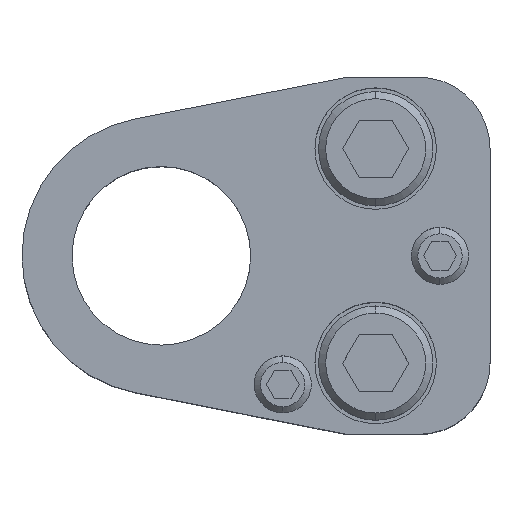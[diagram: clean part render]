
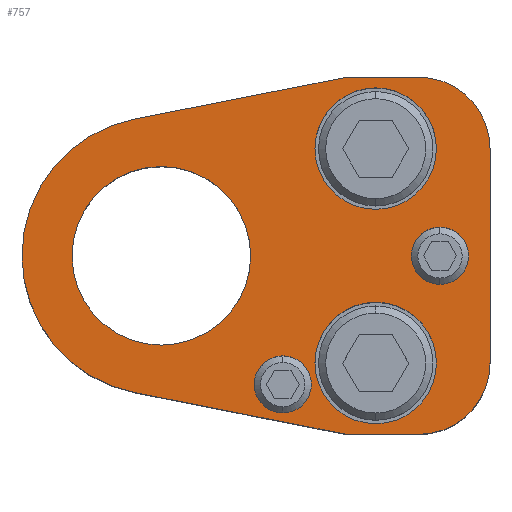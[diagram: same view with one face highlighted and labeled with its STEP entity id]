
A CAD part, top view. The second image highlights one B-rep face of the part: STEP entity #757.
In plain terms, the highlighted planar face has unit normal (0, 0, 1).
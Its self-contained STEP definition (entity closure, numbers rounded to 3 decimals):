
#428=LINE('',#3648,#598);
#433=LINE('',#3663,#603);
#437=LINE('',#3675,#607);
#442=LINE('',#3684,#612);
#447=LINE('',#3698,#617);
#598=VECTOR('',#2943,1.);
#603=VECTOR('',#2956,1.);
#607=VECTOR('',#2968,1.);
#612=VECTOR('',#2975,1.);
#617=VECTOR('',#2988,1.);
#757=ADVANCED_FACE('',(#863,#864,#865,#866,#867,#868),#834,.T.);
#834=PLANE('',#2455);
#863=FACE_BOUND('',#1003,.T.);
#864=FACE_BOUND('',#1004,.T.);
#865=FACE_BOUND('',#1005,.T.);
#866=FACE_BOUND('',#1006,.T.);
#867=FACE_BOUND('',#1007,.T.);
#868=FACE_BOUND('',#1008,.T.);
#1003=EDGE_LOOP('',(#1518,#1519,#1520,#1521,#1522,#1523,#1524,#1525));
#1004=EDGE_LOOP('',(#1526,#1527));
#1005=EDGE_LOOP('',(#1528,#1529));
#1006=EDGE_LOOP('',(#1530,#1531));
#1007=EDGE_LOOP('',(#1532,#1533));
#1008=EDGE_LOOP('',(#1534,#1535));
#1518=ORIENTED_EDGE('',*,*,#2038,.T.);
#1519=ORIENTED_EDGE('',*,*,#2020,.T.);
#1520=ORIENTED_EDGE('',*,*,#2024,.T.);
#1521=ORIENTED_EDGE('',*,*,#2027,.T.);
#1522=ORIENTED_EDGE('',*,*,#2030,.T.);
#1523=ORIENTED_EDGE('',*,*,#2033,.T.);
#1524=ORIENTED_EDGE('',*,*,#2045,.T.);
#1525=ORIENTED_EDGE('',*,*,#2041,.T.);
#1526=ORIENTED_EDGE('',*,*,#2080,.F.);
#1527=ORIENTED_EDGE('',*,*,#2081,.F.);
#1528=ORIENTED_EDGE('',*,*,#2082,.F.);
#1529=ORIENTED_EDGE('',*,*,#2083,.F.);
#1530=ORIENTED_EDGE('',*,*,#2070,.F.);
#1531=ORIENTED_EDGE('',*,*,#2066,.F.);
#1532=ORIENTED_EDGE('',*,*,#2064,.F.);
#1533=ORIENTED_EDGE('',*,*,#2060,.F.);
#1534=ORIENTED_EDGE('',*,*,#2084,.T.);
#1535=ORIENTED_EDGE('',*,*,#2085,.T.);
#1757=VERTEX_POINT('',#3647);
#1758=VERTEX_POINT('',#3649);
#1761=VERTEX_POINT('',#3656);
#1763=VERTEX_POINT('',#3662);
#1765=VERTEX_POINT('',#3668);
#1767=VERTEX_POINT('',#3674);
#1771=VERTEX_POINT('',#3685);
#1773=VERTEX_POINT('',#3691);
#1787=VERTEX_POINT('',#3733);
#1788=VERTEX_POINT('',#3734);
#1791=VERTEX_POINT('',#3745);
#1792=VERTEX_POINT('',#3746);
#1799=VERTEX_POINT('',#3773);
#1800=VERTEX_POINT('',#3774);
#1801=VERTEX_POINT('',#3777);
#1802=VERTEX_POINT('',#3778);
#1803=VERTEX_POINT('',#3781);
#1804=VERTEX_POINT('',#3782);
#2020=EDGE_CURVE('',#1758,#1757,#428,.T.);
#2024=EDGE_CURVE('',#1757,#1761,#2191,.T.);
#2027=EDGE_CURVE('',#1761,#1763,#433,.T.);
#2030=EDGE_CURVE('',#1763,#1765,#2193,.T.);
#2033=EDGE_CURVE('',#1765,#1767,#437,.T.);
#2038=EDGE_CURVE('',#1771,#1758,#442,.T.);
#2041=EDGE_CURVE('',#1773,#1771,#2196,.T.);
#2045=EDGE_CURVE('',#1767,#1773,#447,.T.);
#2060=EDGE_CURVE('',#1787,#1788,#2205,.T.);
#2064=EDGE_CURVE('',#1788,#1787,#2207,.T.);
#2066=EDGE_CURVE('',#1791,#1792,#2209,.T.);
#2070=EDGE_CURVE('',#1792,#1791,#2211,.T.);
#2080=EDGE_CURVE('',#1799,#1800,#2217,.T.);
#2081=EDGE_CURVE('',#1800,#1799,#2218,.T.);
#2082=EDGE_CURVE('',#1801,#1802,#2219,.T.);
#2083=EDGE_CURVE('',#1802,#1801,#2220,.T.);
#2084=EDGE_CURVE('',#1803,#1804,#2221,.T.);
#2085=EDGE_CURVE('',#1804,#1803,#2222,.T.);
#2191=CIRCLE('',#2406,10.);
#2193=CIRCLE('',#2410,10.);
#2196=CIRCLE('',#2416,19.5);
#2205=CIRCLE('',#2429,4.);
#2207=CIRCLE('',#2432,4.);
#2209=CIRCLE('',#2435,4.);
#2211=CIRCLE('',#2438,4.);
#2217=CIRCLE('',#2449,8.5);
#2218=CIRCLE('',#2450,8.5);
#2219=CIRCLE('',#2451,8.5);
#2220=CIRCLE('',#2452,8.5);
#2221=CIRCLE('',#2453,12.5);
#2222=CIRCLE('',#2454,12.5);
#2406=AXIS2_PLACEMENT_3D('',#3657,#2949,#2950);
#2410=AXIS2_PLACEMENT_3D('',#3669,#2961,#2962);
#2416=AXIS2_PLACEMENT_3D('',#3690,#2981,#2982);
#2429=AXIS2_PLACEMENT_3D('',#3732,#3016,#3017);
#2432=AXIS2_PLACEMENT_3D('',#3741,#3024,#3025);
#2435=AXIS2_PLACEMENT_3D('',#3744,#3030,#3031);
#2438=AXIS2_PLACEMENT_3D('',#3753,#3038,#3039);
#2449=AXIS2_PLACEMENT_3D('',#3772,#3064,#3065);
#2450=AXIS2_PLACEMENT_3D('',#3775,#3066,#3067);
#2451=AXIS2_PLACEMENT_3D('',#3776,#3068,#3069);
#2452=AXIS2_PLACEMENT_3D('',#3779,#3070,#3071);
#2453=AXIS2_PLACEMENT_3D('',#3780,#3072,#3073);
#2454=AXIS2_PLACEMENT_3D('',#3783,#3074,#3075);
#2455=AXIS2_PLACEMENT_3D('',#3784,#3076,#3077);
#2943=DIRECTION('',(1.,0.,0.));
#2949=DIRECTION('',(0.,0.,1.));
#2950=DIRECTION('',(-0.707,0.707,0.));
#2956=DIRECTION('',(0.,1.,0.));
#2961=DIRECTION('',(0.,0.,1.));
#2962=DIRECTION('',(-0.707,-0.707,0.));
#2968=DIRECTION('',(-1.,0.,0.));
#2975=DIRECTION('',(0.981,-0.193,0.));
#2981=DIRECTION('',(0.,0.,1.));
#2982=DIRECTION('',(1.,0.,0.));
#2988=DIRECTION('',(-0.981,-0.193,0.));
#3016=DIRECTION('',(0.,0.,1.));
#3017=DIRECTION('',(-1.,0.,0.));
#3024=DIRECTION('',(0.,0.,1.));
#3025=DIRECTION('',(1.,0.,0.));
#3030=DIRECTION('',(0.,0.,1.));
#3031=DIRECTION('',(-1.,0.,0.));
#3038=DIRECTION('',(0.,0.,1.));
#3039=DIRECTION('',(1.,0.,0.));
#3064=DIRECTION('',(0.,0.,1.));
#3065=DIRECTION('',(1.,0.,0.));
#3066=DIRECTION('',(0.,0.,1.));
#3067=DIRECTION('',(-1.,0.,0.));
#3068=DIRECTION('',(0.,0.,1.));
#3069=DIRECTION('',(1.,0.,0.));
#3070=DIRECTION('',(0.,0.,1.));
#3071=DIRECTION('',(-1.,0.,0.));
#3072=DIRECTION('',(0.,0.,-1.));
#3073=DIRECTION('',(-1.,0.,0.));
#3074=DIRECTION('',(0.,0.,-1.));
#3075=DIRECTION('',(1.,0.,0.));
#3076=DIRECTION('',(0.,0.,1.));
#3077=DIRECTION('',(0.981,-0.193,0.));
#3647=CARTESIAN_POINT('',(36.,-25.,35.));
#3648=CARTESIAN_POINT('',(26.,-25.,35.));
#3649=CARTESIAN_POINT('',(26.,-25.,35.));
#3656=CARTESIAN_POINT('',(46.,-15.,35.));
#3657=CARTESIAN_POINT('',(36.,-15.,35.));
#3662=CARTESIAN_POINT('',(46.,15.,35.));
#3663=CARTESIAN_POINT('',(46.,15.,35.));
#3668=CARTESIAN_POINT('',(36.,25.,35.));
#3669=CARTESIAN_POINT('',(36.,15.,35.));
#3674=CARTESIAN_POINT('',(26.,25.,35.));
#3675=CARTESIAN_POINT('',(26.,25.,35.));
#3684=CARTESIAN_POINT('',(26.,-25.,35.));
#3685=CARTESIAN_POINT('',(-3.771,-19.132,35.));
#3690=CARTESIAN_POINT('',(0.,0.,35.));
#3691=CARTESIAN_POINT('',(-3.771,19.132,35.));
#3698=CARTESIAN_POINT('',(26.,25.,35.));
#3732=CARTESIAN_POINT('',(17.,-18.,35.));
#3733=CARTESIAN_POINT('',(17.,-22.,35.));
#3734=CARTESIAN_POINT('',(17.,-14.,35.));
#3741=CARTESIAN_POINT('',(17.,-18.,35.));
#3744=CARTESIAN_POINT('',(39.,0.,35.));
#3745=CARTESIAN_POINT('',(39.,-4.,35.));
#3746=CARTESIAN_POINT('',(39.,4.,35.));
#3753=CARTESIAN_POINT('',(39.,0.,35.));
#3772=CARTESIAN_POINT('',(30.,15.,35.));
#3773=CARTESIAN_POINT('',(30.,23.5,35.));
#3774=CARTESIAN_POINT('',(30.,6.5,35.));
#3775=CARTESIAN_POINT('',(30.,15.,35.));
#3776=CARTESIAN_POINT('',(30.,-15.,35.));
#3777=CARTESIAN_POINT('',(30.,-6.5,35.));
#3778=CARTESIAN_POINT('',(30.,-23.5,35.));
#3779=CARTESIAN_POINT('',(30.,-15.,35.));
#3780=CARTESIAN_POINT('',(0.,0.,35.));
#3781=CARTESIAN_POINT('',(0.,12.5,35.));
#3782=CARTESIAN_POINT('',(0.,-12.5,35.));
#3783=CARTESIAN_POINT('',(0.,0.,35.));
#3784=CARTESIAN_POINT('',(-3.771,-19.132,35.));
